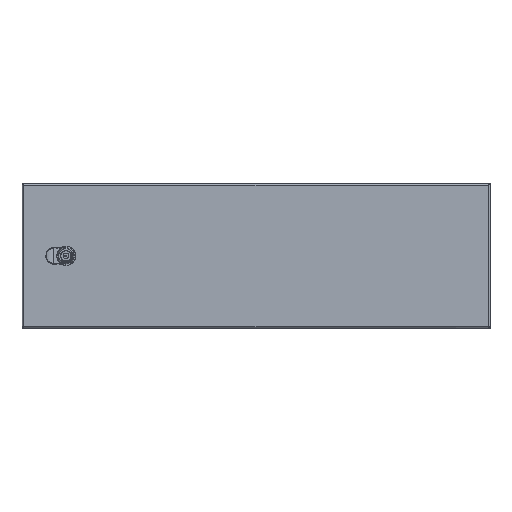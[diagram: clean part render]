
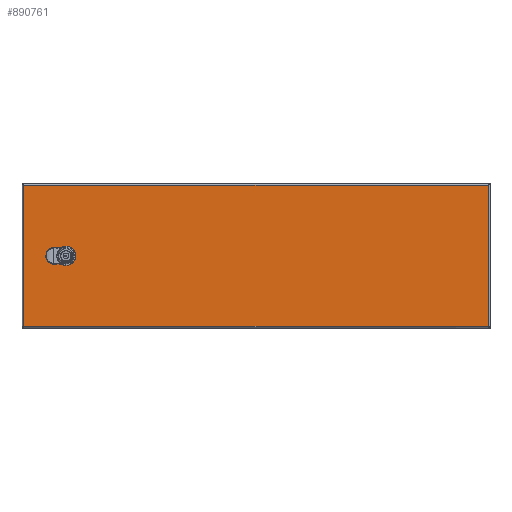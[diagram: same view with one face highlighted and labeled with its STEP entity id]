
A CAD part, top view. The second image highlights one B-rep face of the part: STEP entity #890761.
In plain terms, the highlighted planar face has unit normal (0, 0, 1).
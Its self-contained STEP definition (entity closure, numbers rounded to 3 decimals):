
#882386=CARTESIAN_POINT(' ',(-399.011,122.733,269.003));
#882387=VERTEX_POINT(' ',#882386);
#883821=CARTESIAN_POINT(' ',(389.389,122.733,269.003));
#883822=VERTEX_POINT(' ',#883821);
#884736=CARTESIAN_POINT(' ',(389.389,122.733,269.003));
#884741=DIRECTION(' ',(-1.,0.,0.));
#884746=VECTOR(' ',#884741,1.);
#884751=LINE('',#884736,#884746);
#884756=EDGE_CURVE(' ',#883822,#882387,#884751,.T.);
#888616=CARTESIAN_POINT(' ',(389.389,-116.667,269.003));
#888617=VERTEX_POINT(' ',#888616);
#890201=CARTESIAN_POINT(' ',(-399.011,-116.667,269.003));
#890202=VERTEX_POINT(' ',#890201);
#890631=DIRECTION(' ',(-0.,-0.,1.));
#890636=CARTESIAN_POINT(' ',(389.389,-116.667,269.003));
#890641=DIRECTION(' ',(0.,1.,0.));
#890646=AXIS2_PLACEMENT_3D(' ',#890636,#890631,#890641);
#890651=PLANE('NONE',#890646);
#890656=CARTESIAN_POINT(' ',(-399.011,-116.667,269.003));
#890661=DIRECTION(' ',(1.,0.,0.));
#890666=VECTOR(' ',#890661,1.);
#890671=LINE('',#890656,#890666);
#890676=EDGE_CURVE(' ',#890202,#888617,#890671,.T.);
#890681=ORIENTED_EDGE(' ',*,*,#890676,.T.);
#890686=CARTESIAN_POINT(' ',(389.389,122.733,269.003));
#890691=DIRECTION(' ',(0.,-1.,0.));
#890696=VECTOR(' ',#890691,1.);
#890701=LINE('',#890686,#890696);
#890706=EDGE_CURVE(' ',#883822,#888617,#890701,.T.);
#890711=ORIENTED_EDGE(' ',*,*,#890706,.F.);
#890716=ORIENTED_EDGE(' ',*,*,#884756,.T.);
#890721=CARTESIAN_POINT(' ',(-399.011,122.733,269.003));
#890726=DIRECTION(' ',(0.,-1.,0.));
#890731=VECTOR(' ',#890726,1.);
#890736=LINE('',#890721,#890731);
#890741=EDGE_CURVE(' ',#882387,#890202,#890736,.T.);
#890746=ORIENTED_EDGE(' ',*,*,#890741,.T.);
#890751=EDGE_LOOP(' ',(#890681,#890711,#890716,#890746));
#890756=FACE_OUTER_BOUND(' ',#890751,.T.);
#890761=ADVANCED_FACE('NONE',(#890756),#890651,.T.);
